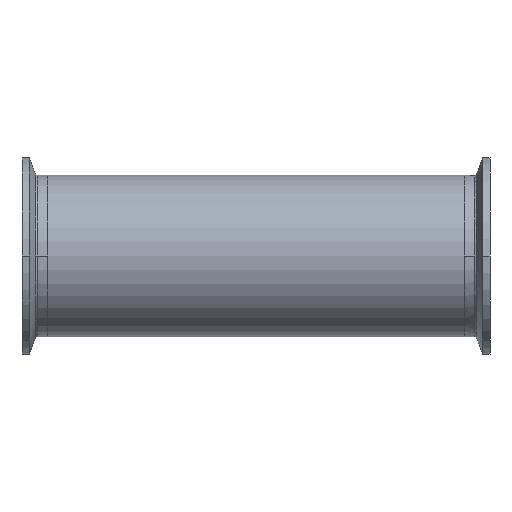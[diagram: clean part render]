
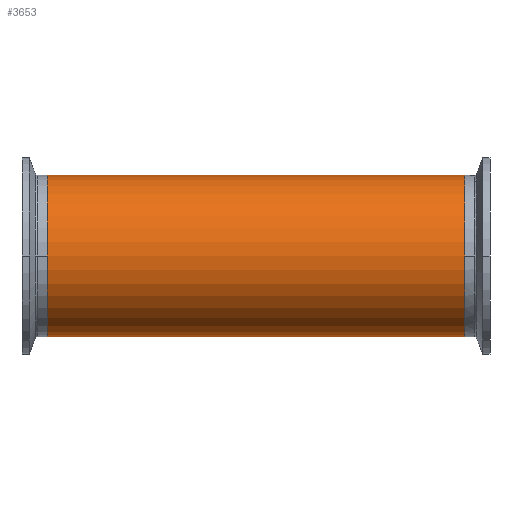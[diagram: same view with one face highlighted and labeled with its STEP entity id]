
A CAD part, front view. The second image highlights one B-rep face of the part: STEP entity #3653.
In plain terms, the highlighted cylindrical face has radius 31.75 mm (diameter 63.5 mm), a partial arc.
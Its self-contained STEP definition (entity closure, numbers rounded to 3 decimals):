
#3 = ORIENTED_EDGE ( 'NONE', *, *, #1530, .T. ) ;
#139 = CARTESIAN_POINT ( 'NONE',  ( 82.1, 0., 0. ) ) ;
#208 = EDGE_CURVE ( 'NONE', #3213, #2655, #3479, .T. ) ;
#292 = CARTESIAN_POINT ( 'NONE',  ( 171.903, 0., 31.75 ) ) ;
#305 = CIRCLE ( 'NONE', #1060, 31.75 ) ;
#326 = DIRECTION ( 'NONE',  ( 0., 0., 1. ) ) ;
#355 = EDGE_LOOP ( 'NONE', ( #2048, #1802, #558, #3 ) ) ;
#463 = DIRECTION ( 'NONE',  ( 0., 0., 1. ) ) ;
#533 = CYLINDRICAL_SURFACE ( 'NONE', #2031, 31.75 ) ;
#558 = ORIENTED_EDGE ( 'NONE', *, *, #1838, .T. ) ;
#584 = CARTESIAN_POINT ( 'NONE',  ( 82.1, 0., 31.75 ) ) ;
#633 = FACE_OUTER_BOUND ( 'NONE', #355, .T. ) ;
#641 = CARTESIAN_POINT ( 'NONE',  ( 171.903, 0., 0. ) ) ;
#741 = DIRECTION ( 'NONE',  ( -1., 0., 0. ) ) ;
#825 = CARTESIAN_POINT ( 'NONE',  ( -82.1, 0., 0. ) ) ;
#969 = VECTOR ( 'NONE', #741, 1000. ) ;
#1060 = AXIS2_PLACEMENT_3D ( 'NONE', #825, #3116, #1162 ) ;
#1162 = DIRECTION ( 'NONE',  ( 0., 0., 1. ) ) ;
#1457 = AXIS2_PLACEMENT_3D ( 'NONE', #139, #2424, #463 ) ;
#1530 = EDGE_CURVE ( 'NONE', #2536, #2655, #305, .T. ) ;
#1802 = ORIENTED_EDGE ( 'NONE', *, *, #3334, .T. ) ;
#1838 = EDGE_CURVE ( 'NONE', #2577, #2536, #2403, .T. ) ;
#2031 = AXIS2_PLACEMENT_3D ( 'NONE', #641, #3260, #326 ) ;
#2048 = ORIENTED_EDGE ( 'NONE', *, *, #208, .F. ) ;
#2239 = CIRCLE ( 'NONE', #1457, 31.75 ) ;
#2403 = LINE ( 'NONE', #292, #4005 ) ;
#2424 = DIRECTION ( 'NONE',  ( -1., 0., 0. ) ) ;
#2536 = VERTEX_POINT ( 'NONE', #2870 ) ;
#2577 = VERTEX_POINT ( 'NONE', #584 ) ;
#2655 = VERTEX_POINT ( 'NONE', #3751 ) ;
#2870 = CARTESIAN_POINT ( 'NONE',  ( -82.1, 0., 31.75 ) ) ;
#3116 = DIRECTION ( 'NONE',  ( 1., 0., 0. ) ) ;
#3163 = CARTESIAN_POINT ( 'NONE',  ( 171.903, 0., -31.75 ) ) ;
#3213 = VERTEX_POINT ( 'NONE', #3811 ) ;
#3260 = DIRECTION ( 'NONE',  ( -1., 0., 0. ) ) ;
#3334 = EDGE_CURVE ( 'NONE', #3213, #2577, #2239, .T. ) ;
#3479 = LINE ( 'NONE', #3163, #969 ) ;
#3653 = ADVANCED_FACE ( 'NONE', ( #633 ), #533, .T. ) ;
#3751 = CARTESIAN_POINT ( 'NONE',  ( -82.1, 0., -31.75 ) ) ;
#3811 = CARTESIAN_POINT ( 'NONE',  ( 82.1, 0., -31.75 ) ) ;
#3855 = DIRECTION ( 'NONE',  ( -1., 0., 0. ) ) ;
#4005 = VECTOR ( 'NONE', #3855, 1000. ) ;
